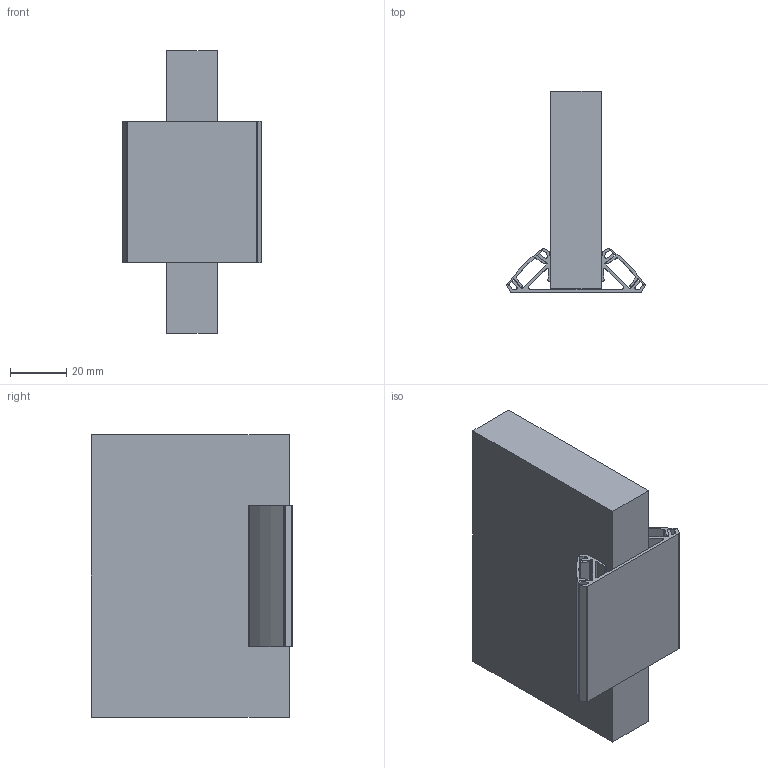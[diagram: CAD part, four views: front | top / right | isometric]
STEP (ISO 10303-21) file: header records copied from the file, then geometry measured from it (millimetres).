
FILE_DESCRIPTION(/* description */ ('Cover for LED Rails'),/* implementation_level */ '2;1');
FILE_NAME(/* name */ 'D:\$Workingspace\Designs\Profile\137 - Profil LED nakładany mały\MOOV pliki\pliki 3ds\PA-GLAXNBD3M-AL.stp',/* time_stamp */ '2018-01-16T08:35:46+01:00',/* author */ ('tomaszw'),/* organization */ (''),/* preprocessor_version */ 'ST-DEVELOPER v16.1',/* originating_system */ 'Autodesk Inventor 2016',/* authorisation */ '');
FILE_SCHEMA (('CONFIG_CONTROL_DESIGN'));
Length unit declared in the file: millimetre
Products named in the file (4): Cover for LED Rails; 124-Profil LED do wnętrza szafy dwustronny; płyta mała; złożenie podwójnego z dyfuzor
em
Assembly tree (4 placements, depth 2):
  złożenie podwójnego z dyfuzor
em
    Cover for LED Rails  x2
    124-Profil LED do wnętrza szafy dwustronny
    płyta mała
Bounding box: 49.13 x 71.2 x 100 mm (x, y, z)
Volume: 134374.9 mm3; surface area: 36592.6 mm2
Topology: 4 solids, 4 shells, 168 faces, 480 edges, 320 vertices
Faces by surface type: plane 96, cylinder 72
Entity records: 4853 total; most frequent: CARTESIAN_POINT 842, DIRECTION 838, ORIENTED_EDGE 828, EDGE_CURVE 414, LINE 294, VECTOR 294, VERTEX_POINT 276, AXIS2_PLACEMENT_3D 272
